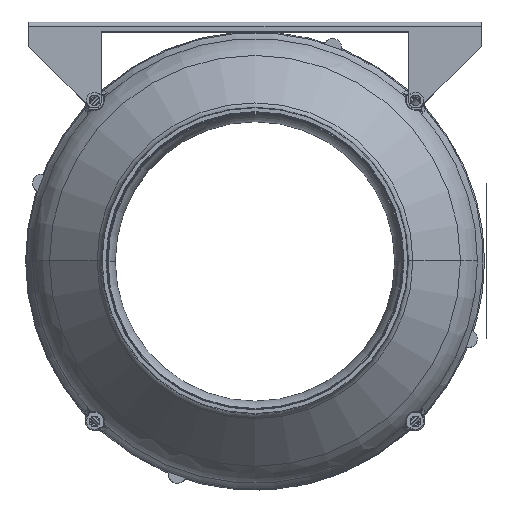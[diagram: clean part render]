
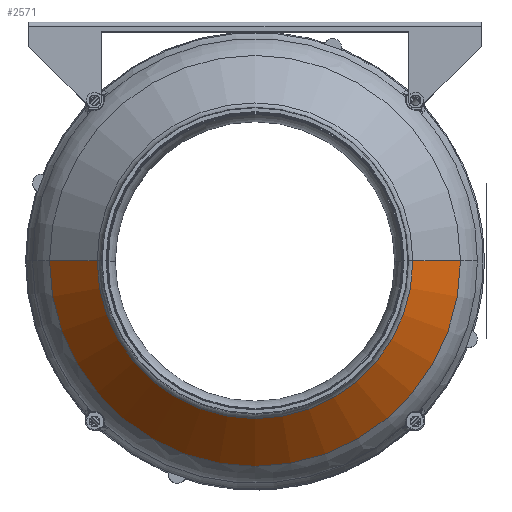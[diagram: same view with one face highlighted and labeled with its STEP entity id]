
A CAD part, top view. The second image highlights one B-rep face of the part: STEP entity #2571.
In plain terms, the highlighted conical face has half-angle 42.963 degrees and reference radius 106.643 mm.
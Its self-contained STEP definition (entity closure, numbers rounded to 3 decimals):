
#1796 = LINE ( 'NONE', #4893, #1803 ) ;
#1803 = VECTOR ( 'NONE', #4897, 1000. ) ;
#2100 = CIRCLE ( 'NONE', #6133, 81.929 ) ;
#2103 = LINE ( 'NONE', #11495, #2105 ) ;
#2105 = VECTOR ( 'NONE', #11496, 1000. ) ;
#2571 = ADVANCED_FACE ( 'NONE', ( #12282 ), #12285, .T. ) ;
#3826 = AXIS2_PLACEMENT_3D ( 'NONE', #19143, #19144, #19145 ) ;
#4893 = CARTESIAN_POINT ( 'NONE',  ( 106.643, 0., 85.788 ) ) ;
#4897 = DIRECTION ( 'NONE',  ( 0.682, 0., -0.732 ) ) ;
#5071 = EDGE_LOOP ( 'NONE', ( #7898, #7899, #7900, #7901 ) ) ;
#5550 = EDGE_CURVE ( 'NONE', #19347, #19343, #15598, .T. ) ;
#6133 = AXIS2_PLACEMENT_3D ( 'NONE', #11492, #11493, #11494 ) ;
#7320 = EDGE_CURVE ( 'NONE', #19352, #19343, #1796, .T. ) ;
#7898 = ORIENTED_EDGE ( 'NONE', *, *, #7320, .F. ) ;
#7899 = ORIENTED_EDGE ( 'NONE', *, *, #12138, .F. ) ;
#7900 = ORIENTED_EDGE ( 'NONE', *, *, #12141, .T. ) ;
#7901 = ORIENTED_EDGE ( 'NONE', *, *, #5550, .T. ) ;
#8330 = CARTESIAN_POINT ( 'NONE',  ( 106.643, 0., 85.788 ) ) ;
#8334 = CARTESIAN_POINT ( 'NONE',  ( -106.643, 0., 85.788 ) ) ;
#8339 = CARTESIAN_POINT ( 'NONE',  ( 81.929, 0., 112.325 ) ) ;
#8341 = CARTESIAN_POINT ( 'NONE',  ( -81.929, 0., 112.325 ) ) ;
#11492 = CARTESIAN_POINT ( 'NONE',  ( 0., 0., 112.325 ) ) ;
#11493 = DIRECTION ( 'NONE',  ( 0., 0., 1. ) ) ;
#11494 = DIRECTION ( 'NONE',  ( 1., 0., 0. ) ) ;
#11495 = CARTESIAN_POINT ( 'NONE',  ( -106.643, 0., 85.788 ) ) ;
#11496 = DIRECTION ( 'NONE',  ( -0.682, 0., -0.732 ) ) ;
#12098 = DIRECTION ( 'NONE',  ( -1., 0., 0. ) ) ;
#12117 = DIRECTION ( 'NONE',  ( 0., 0., -1. ) ) ;
#12119 = CARTESIAN_POINT ( 'NONE',  ( 0., 0., 85.788 ) ) ;
#12138 = EDGE_CURVE ( 'NONE', #19354, #19352, #2100, .T. ) ;
#12141 = EDGE_CURVE ( 'NONE', #19354, #19347, #2103, .T. ) ;
#12282 = FACE_OUTER_BOUND ( 'NONE', #5071, .T. ) ;
#12285 = CONICAL_SURFACE ( 'NONE', #20954, 106.643, 0.75 ) ;
#15598 = CIRCLE ( 'NONE', #3826, 106.643 ) ;
#19143 = CARTESIAN_POINT ( 'NONE',  ( 0., 0., 85.788 ) ) ;
#19144 = DIRECTION ( 'NONE',  ( 0., 0., 1. ) ) ;
#19145 = DIRECTION ( 'NONE',  ( 1., 0., 0. ) ) ;
#19343 = VERTEX_POINT ( 'NONE', #8330 ) ;
#19347 = VERTEX_POINT ( 'NONE', #8334 ) ;
#19352 = VERTEX_POINT ( 'NONE', #8339 ) ;
#19354 = VERTEX_POINT ( 'NONE', #8341 ) ;
#20954 = AXIS2_PLACEMENT_3D ( 'NONE', #12119, #12117, #12098 ) ;
